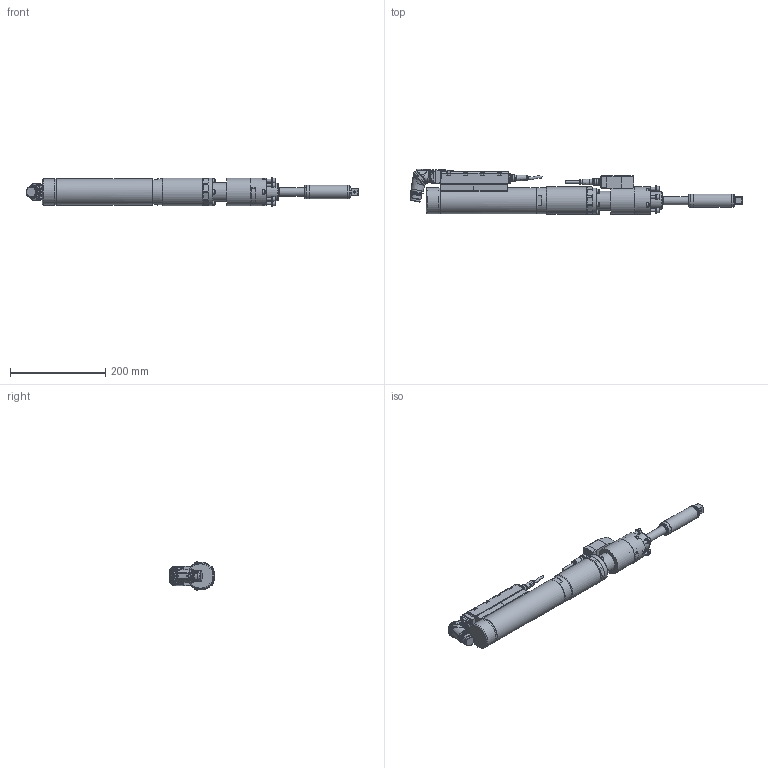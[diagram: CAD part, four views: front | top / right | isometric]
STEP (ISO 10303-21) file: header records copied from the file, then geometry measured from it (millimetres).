
FILE_DESCRIPTION (( 'STEP AP214' ), '1' );
FILE_NAME ('70082435_ESX222ZWRX270AZX250.STEP', '2016-11-14T10:11:24', ( 'admin' ), ( '' ), 'SwSTEP 2.0', 'SolidWorks 2014', '' );
FILE_SCHEMA (( 'AUTOMOTIVE_DESIGN' ));
Length unit declared in the file: millimetre
Products named in the file (11): 70082435_ESX222ZWRX270AZX250; 7004768_3; 70082371; 70082333; 70082306_ESX222_Standard_Winkel; 70082293_2; 70057493_Standard_winkel; 70057493_4; 70057493_3; 70057493_2; 70082306
Assembly tree (10 placements, depth 4):
  70082435_ESX222ZWRX270AZX250
    70082306_ESX222_Standard_Winkel
      70082306
      70057493_Standard_winkel
        70057493_2
        70057493_3
        70057493_4
      70082293_2
    70082333
    70082371
    7004768_3
Bounding box: 698.56 x 95.64 x 59.55 mm (x, y, z)
Volume: 1562088.3 mm3; surface area: 202501.1 mm2
Topology: 12 solids, 13 shells, 2580 faces, 6659 edges, 4313 vertices
Faces by surface type: plane 1258, cylinder 699, cone 284, bspline 264, torus 69, sphere 6
Full cylindrical faces by diameter (mm): 0.5 x7, 0.57 x14, 1.6 x3, 2 x3, 2.5 x1, 3 x4, 4.2 x11, 4.5 x1, 4.9 x2, 5 x37, 5.5 x12, 6 x6, 8.459 x2, 8.5 x10, 9 x13, 9.5 x1, 9.7 x1, 10 x5, 11.08 x1, 11.7 x1, 12 x6, 12.3 x1, 13 x1, 14 x3, 14.5 x2, 17.3 x1, 17.4 x1, 17.5 x1, 20 x2, 21.15 x1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
Entity records: 90077 total; most frequent: CARTESIAN_POINT 29862, ORIENTED_EDGE 12220, DIRECTION 10933, EDGE_CURVE 6110, VERTEX_POINT 4145, AXIS2_PLACEMENT_3D 4084, EDGE_LOOP 3185, FACE_OUTER_BOUND 2822
